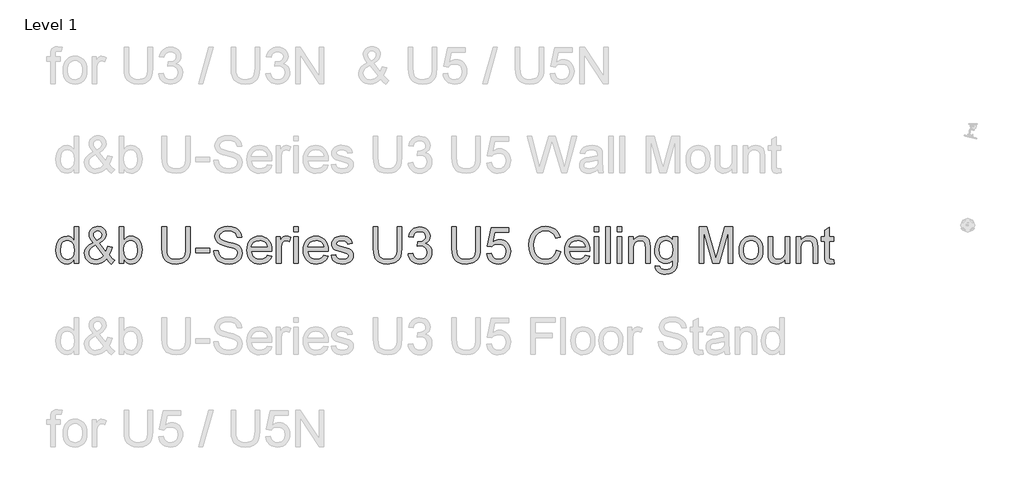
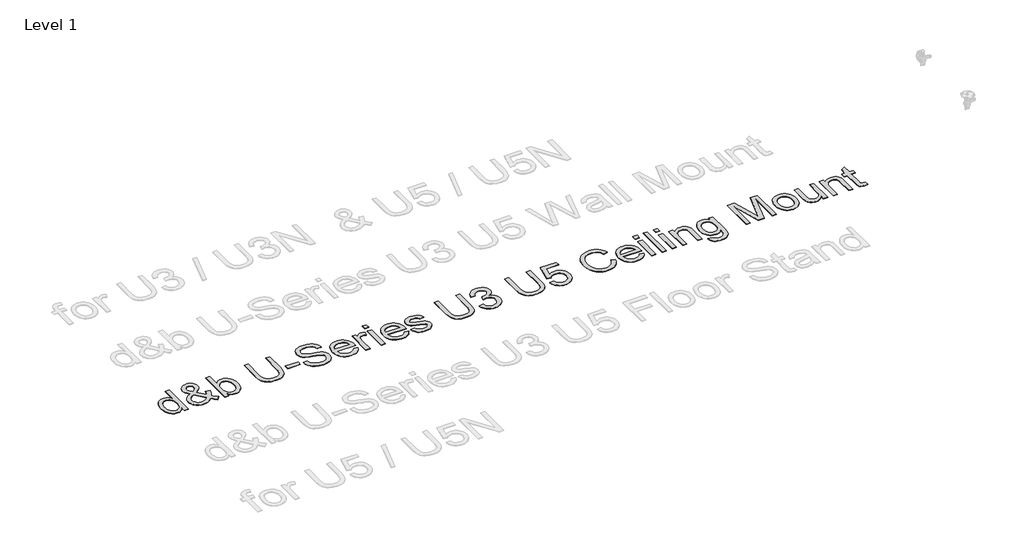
# One storey, part 11 of 29: 1 proxy.
"""IFC4 building model written with IfcOpenShell, lengths in millimetres."""

from ifc_helpers import new_model, si_unit, origin, origin_with_axes, place, context, project, spatial, polyline, outline, extrude, element, save

model = new_model("IFC4")

# Units and contexts
model_context = context("Model", 3, world=origin())
ifc_project = project(units=[si_unit("LENGTHUNIT", "METRE", prefix="MILLI")], contexts=[model_context])

# Site, building, storey
site = spatial("IfcSite", under=ifc_project)
building = spatial("IfcBuilding", under=site)
storey = spatial("IfcBuildingStorey", under=building, Name="Level 1", Elevation=0.0)

# Proxy
placement = place(None, origin())
element("IfcBuildingElementProxy", 1, Name="400mm Arial", ObjectType="400mm Arial", at=placement, inside=storey, context=model_context, shape_type="SweptSolid", body=[
    extrude(outline(polyline([(-20788.4119982, -835.6363385), (-20788.4119982, -788.2531375), (-20803.4399777, -811.7301402), (-20821.6440051, -828.4994278), (-20843.0240804, -838.5610004), (-20867.5802036, -841.9148579), (-20900.051921, -837.0588156), (-20929.7767862, -822.4906885), (-20954.9399147, -799.2282837), (-20973.7264219, -768.2894079), (-20985.4250694, -730.9248599), (-20989.3246185, -688.3854386), (-20985.7316377, -646.3733147), (-20974.9526952, -608.4324183), (-20957.0000539, -576.7209903), (-20931.8859763, -553.3972718), (-20901.5111863, -539.049874), (-20867.7764073, -534.2674081), (-20843.20189, -537.6887106), (-20821.4723268, -547.9526183), (-20803.0537016, -563.6857049), (-20788.4119982, -583.5145445), (-20788.4119982, -433.8110979), (-20738.1838431, -433.8110979), (-20738.1838431, -835.6363385), (-20788.4119982, -835.6363385)]), holes=[polyline([(-20939.0964634, -688.1892348), (-20937.6801177, -712.5460886), (-20933.4310807, -733.6226612), (-20926.3493523, -751.4189528), (-20916.4349325, -765.9349632), (-20891.7377879, -785.2487679), (-20877.8625053, -790.0772191), (-20862.9694159, -791.6867028), (-20848.0058157, -790.1507955), (-20834.2133066, -785.5430735), (-20810.1415614, -767.1121855), (-20800.6348775, -753.2031804), (-20793.844389, -736.0506824), (-20788.4119982, -692.0152076), (-20793.9424909, -643.8717172), (-20800.8556067, -625.336596), (-20810.5339688, -610.4925575), (-20822.235682, -599.1188724), (-20835.2188507, -590.9948117), (-20849.4834751, -586.1203753), (-20865.0295551, -584.4955631), (-20880.2169501, -586.0559959), (-20894.0922327, -590.7372943), (-20906.6554028, -598.5394583), (-20917.9064605, -609.4624879), (-20927.1770868, -623.7455063), (-20933.7989627, -641.627637), (-20939.0964634, -688.1892348)])]), origin_with_axes(), (0.0, 0.0, 1.0), 5.0),
    extrude(outline(polyline([(-20432.4003287, -785.9967946), (-20457.9313392, -810.4609473), (-20485.6696416, -827.9353421), (-20515.664287, -838.4199789), (-20547.9643262, -841.9148579), (-20577.2722584, -839.3274212), (-20603.3918801, -831.5651111), (-20626.3231911, -818.6279276), (-20646.0661915, -800.5158707), (-20658.8991418, -783.1457092), (-20668.0655348, -764.7822662), (-20673.5653707, -745.4255419), (-20675.3986493, -725.0755362), (-20669.5002746, -689.881492), (-20651.8051507, -658.2681659), (-20622.3868538, -630.2600833), (-20581.3189604, -605.8817698), (-20603.2324646, -577.5303307), (-20616.3903773, -555.0650035), (-20622.975465, -535.8860888), (-20625.1704942, -517.3938872), (-20623.4414488, -499.8397847), (-20618.2543127, -483.4751673), (-20609.6090858, -468.300035), (-20597.5057682, -454.3143878), (-20582.784357, -442.5973462), (-20566.2848495, -434.2280308), (-20548.0072457, -429.2064416), (-20527.9515456, -427.5325785), (-20508.8032878, -429.1328652), (-20491.4821772, -433.9337252), (-20475.9882138, -441.9351586), (-20462.3213977, -453.1371654), (-20451.1623105, -466.5832523), (-20443.1915339, -481.3169262), (-20438.409068, -497.3381871), (-20436.8149127, -514.647035), (-20441.5360649, -542.6305921), (-20455.6995218, -568.5049591), (-20479.3052831, -592.270136), (-20512.353349, -613.9261227), (-20439.6598668, -704.4741445), (-20427.2745063, -678.5997775), (-20417.9793545, -648.8503868), (-20367.7511994, -659.7396939), (-20383.2022432, -706.2645035), (-20403.2640747, -742.4395664), (-20374.7164319, -775.7451497), (-20342.6371219, -803.2627229), (-20380.3082382, -841.9148579), (-20405.9373505, -818.4685121), (-20432.4003287, -785.9967946)]), holes=[polyline([(-20537.7617322, -582.2392202), (-20511.4949577, -565.5741659), (-20496.4608468, -551.091878), (-20489.3975125, -537.0019976), (-20487.0430678, -521.5141656), (-20490.1455392, -503.9661944), (-20499.4529537, -489.9744158), (-20513.4202068, -480.8141542), (-20530.5021941, -477.7607336), (-20547.9520634, -480.7896287), (-20562.2381476, -489.876314), (-20571.7662912, -503.3285323), (-20574.9423391, -519.4540264), (-20570.6258571, -537.8481261), (-20557.578309, -558.3023651), (-20537.7617322, -582.2392202)]), polyline([(-20466.0492686, -749.7972063), (-20555.7143735, -637.8629779), (-20589.9641873, -659.7151684), (-20610.8966728, -679.9486782), (-20621.6020389, -699.2747456), (-20625.1704942, -718.4046094), (-20620.2899264, -742.0962099), (-20605.648223, -766.6707271), (-20594.8692805, -777.6152165), (-20582.0547244, -785.4327089), (-20567.2045545, -790.1232043), (-20550.3187709, -791.6867028), (-20527.5959264, -788.7681723), (-20504.1618433, -780.0125808), (-20482.7388484, -766.6216762), (-20466.0492686, -749.7972063)])]), origin_with_axes(), (0.0, 0.0, 1.0), 5.0),
    extrude(outline(polyline([(-20242.1808118, -835.6363385), (-20292.4089668, -835.6363385), (-20292.4089668, -433.8110979), (-20242.1808118, -433.8110979), (-20242.1808118, -582.8278314), (-20225.6629102, -561.5826462), (-20207.011293, -546.4075139), (-20186.2259603, -537.3024345), (-20163.306912, -534.2674081), (-20137.432545, -537.0019976), (-20112.9806551, -545.2057661), (-20091.3491937, -558.3636787), (-20073.9361126, -575.9607008), (-20060.2876906, -597.8251541), (-20049.9502065, -623.7853602), (-20043.4386952, -652.7621987), (-20041.2681915, -683.676549), (-20043.5153373, -719.3488398), (-20050.2567749, -750.729174), (-20061.4925041, -777.8175516), (-20077.2225251, -800.6139726), (-20096.1040685, -818.6831099), (-20116.7943651, -831.5896366), (-20139.2934148, -839.3335526), (-20163.6012176, -841.9148579), (-20187.274424, -838.5855258), (-20208.2620918, -828.5975297), (-20226.5642211, -811.9508694), (-20242.1808118, -788.645545), (-20242.1808118, -835.6363385)]), holes=[polyline([(-20242.1808118, -686.0309938), (-20238.7472465, -727.9204903), (-20228.4465506, -756.2719294), (-20216.2757879, -771.7658928), (-20202.1307252, -782.8330095), (-20186.0113625, -789.4732795), (-20167.9176997, -791.6867028), (-20152.8958515, -790.0557593), (-20138.9285984, -785.1629288), (-20126.0159404, -777.0082112), (-20114.1578774, -765.5916066), (-20104.2434577, -750.9437719), (-20097.1617293, -733.0953637), (-20092.9126922, -712.0463822), (-20091.4963465, -687.7968274), (-20096.9287373, -641.8361035), (-20103.7192258, -624.0428776), (-20113.2259097, -609.7077425), (-20124.6578427, -598.677414), (-20137.2240785, -590.798608), (-20150.9246172, -586.0713243), (-20165.7594586, -584.4955631), (-20180.7813068, -586.1265066), (-20194.7485599, -591.0193372), (-20207.6612179, -599.1740547), (-20219.5192809, -610.5906593), (-20229.4337006, -625.0913413), (-20236.515429, -642.498291), (-20240.7644661, -662.8115085), (-20242.1808118, -686.0309938)])]), origin_with_axes(), (0.0, 0.0, 1.0), 5.0),
    extrude(outline(polyline([(-19557.8221989, -433.8110979), (-19507.5940438, -433.8110979), (-19507.5940438, -665.6258058), (-19511.0030836, -719.9129256), (-19521.2302031, -761.7165829), (-19529.4155775, -778.6698116), (-19540.3355414, -793.9675712), (-19570.3792376, -819.5966835), (-19589.5213641, -829.3608848), (-19611.4348683, -836.3353143), (-19663.5760097, -841.9148579), (-19714.576717, -837.0588156), (-19755.3503048, -822.4906885), (-19771.9049946, -811.6902863), (-19785.9090359, -798.7132489), (-19797.3624287, -783.5595764), (-19806.2651729, -766.2292688), (-19817.706303, -722.6597778), (-19821.520013, -665.6258058), (-19821.520013, -433.8110979), (-19771.2918579, -433.8110979), (-19771.2918579, -663.8599722), (-19768.8147858, -708.999093), (-19761.3835695, -740.4284782), (-19747.9190885, -762.1948295), (-19727.3422222, -778.3448491), (-19700.5113621, -788.3512394), (-19668.2848993, -791.6867028), (-19640.6017791, -790.0373652), (-19617.1983529, -785.0893524), (-19598.0746205, -776.8426643), (-19583.230582, -765.297301), (-19572.1144144, -749.0614423), (-19564.1742947, -726.7432679), (-19559.4102228, -698.3427779), (-19557.8221989, -663.8599722), (-19557.8221989, -433.8110979)])), origin_with_axes(), (0.0, 0.0, 1.0), 5.0),
    extrude(outline(polyline([(-19451.0873693, -716.3444702), (-19451.0873693, -666.1163151), (-19294.1243847, -666.1163151), (-19294.1243847, -716.3444702), (-19451.0873693, -716.3444702)])), origin_with_axes(), (0.0, 0.0, 1.0), 5.0),
    extrude(outline(polyline([(-19250.174749, -697.5089121), (-19199.946594, -697.5089121), (-19194.1831094, -725.3821046), (-19183.7597862, -747.7861181), (-19167.499402, -765.5670812), (-19144.2247344, -779.5711224), (-19115.7751935, -788.6578077), (-19083.9901891, -791.6867028), (-19056.006632, -789.3935717), (-19031.5056911, -782.5141784), (-19011.6523261, -771.6248713), (-18997.6114966, -757.301999), (-18989.2605753, -740.8576738), (-18986.4769349, -723.6040082), (-18988.5615995, -706.7918011), (-18994.8155934, -692.2604623), (-19007.519785, -679.862839), (-19028.9550426, -669.4517786), (-19102.0899832, -650.2728639), (-19150.0985836, -637.580935), (-19180.8167302, -625.5021429), (-19205.8204431, -608.6040966), (-19223.5400926, -588.1253322), (-19234.0983058, -564.5073081), (-19237.6177103, -538.1914827), (-19233.26444, -508.7731858), (-19220.2046292, -481.3414517), (-19198.7816343, -458.0913096), (-19169.338812, -441.2177887), (-19133.997615, -430.9538811), (-19094.8794961, -427.5325785), (-19052.4994903, -431.1132966), (-19015.4169852, -441.8554509), (-18984.956356, -459.5383121), (-18962.4419779, -483.9411511), (-18948.1926819, -513.543389), (-18942.5272992, -546.8244468), (-18992.7554543, -546.8244468), (-19001.9770296, -516.854327), (-19010.3402136, -504.996264), (-19021.2049952, -495.2228656), (-19051.2486915, -482.1262666), (-19092.9174588, -477.7607336), (-19135.5672448, -482.0772157), (-19151.8705486, -487.4728183), (-19164.8261262, -495.0266619), (-19181.7486979, -514.0829493), (-19187.3895552, -536.7199547), (-19183.3919042, -556.0214967), (-19171.3989511, -571.5461169), (-19143.047512, -585.4275309), (-19089.3857917, -599.6032504), (-19034.0072887, -613.0677314), (-19000.5055016, -624.8154298), (-18971.8720197, -643.0378513), (-18951.8960273, -665.5277039), (-18940.1605917, -692.0397331), (-18936.2487798, -722.328684), (-18940.7492029, -753.2920853), (-18954.2504721, -782.4160765), (-18976.2007645, -807.4811031), (-19006.048257, -826.2676104), (-19041.941277, -838.003046), (-19082.0281518, -841.9148579), (-19131.2385, -837.6964777), (-19171.7423077, -825.041337), (-19204.0055586, -803.9003851), (-19228.4942368, -774.2245708), (-19244.2150607, -738.0740334), (-19250.174749, -697.5089121)])), origin_with_axes(), (0.0, 0.0, 1.0), 5.0),
    extrude(outline(polyline([(-18660.5825381, -747.7370671), (-18611.3354017, -754.0155865), (-18618.8861796, -773.7401928), (-18629.0795766, -791.1226171), (-18641.9155925, -806.1628593), (-18657.3942275, -818.8609195), (-18675.3560659, -828.9470176), (-18695.6416922, -836.1513733), (-18743.1843087, -841.9148579), (-18774.3500451, -839.4285887), (-18802.1190044, -831.9697813), (-18826.4911866, -819.5384355), (-18847.4665916, -802.1345515), (-18864.3339811, -780.2425071), (-18876.3821165, -754.3466803), (-18883.6109977, -724.4470712), (-18886.0206247, -690.5436796), (-18883.5864722, -655.4906568), (-18876.2840146, -624.5947006), (-18864.1132519, -597.8558109), (-18847.0741842, -575.2739878), (-18826.1539614, -557.3336092), (-18802.3397336, -544.519053), (-18775.6315007, -536.8303193), (-18746.0292628, -534.2674081), (-18717.3804525, -536.8241879), (-18691.472363, -544.4945275), (-18668.3049943, -557.2784269), (-18647.8783465, -575.1758859), (-18631.2040951, -597.7086581), (-18619.2939155, -624.3984969), (-18612.1478077, -655.2454022), (-18609.7657718, -690.249374), (-18610.0600774, -703.7874314), (-18835.7924697, -703.7874314), (-18832.8831362, -723.8308688), (-18827.0981918, -741.3849713), (-18818.4376365, -756.449739), (-18806.9014703, -769.0251719), (-18793.1273553, -778.9395917), (-18777.7529536, -786.0213201), (-18742.2032901, -791.6867028), (-18715.4705318, -789.0624779), (-18692.9561537, -781.1898032), (-18674.6601558, -767.5781694), (-18660.5825381, -747.7370671)]), holes=[polyline([(-18835.7924697, -653.5592764), (-18659.9939269, -653.5592764), (-18666.7874811, -627.0227218), (-18680.1048093, -608.0400108), (-18693.8022823, -597.739315), (-18709.3882161, -590.3816751), (-18726.8626109, -585.9670911), (-18746.2254666, -584.4955631), (-18780.0828729, -589.1921899), (-18808.0786927, -603.2820704), (-18827.5396502, -625.2446255), (-18835.7924697, -653.5592764)])]), origin_with_axes(), (0.0, 0.0, 1.0), 5.0),
    extrude(outline(polyline([(-18559.5376168, -835.6363385), (-18559.5376168, -540.5459274), (-18515.5879811, -540.5459274), (-18515.5879811, -584.2012575), (-18499.3521223, -558.8909763), (-18484.3915879, -543.9794927), (-18469.3820025, -536.6954292), (-18452.998991, -534.2674081), (-18427.9830153, -538.1424317), (-18402.5746321, -549.7675028), (-18419.3500511, -594.796259), (-18437.0083869, -587.0707371), (-18454.6667227, -584.4955631), (-18469.6640453, -586.9726352), (-18483.0672127, -594.4038515), (-18493.8952061, -606.2251263), (-18501.1670069, -621.8723738), (-18507.273848, -649.9295073), (-18509.3094617, -680.5372893), (-18509.3094617, -835.6363385), (-18559.5376168, -835.6363385)])), origin_with_axes(), (0.0, 0.0, 1.0), 5.0),
    extrude(outline(polyline([(-18371.1820352, -484.039253), (-18371.1820352, -433.8110979), (-18320.9538802, -433.8110979), (-18320.9538802, -484.039253), (-18371.1820352, -484.039253)])), origin_with_axes(), (0.0, 0.0, 1.0), 5.0),
    extrude(outline(polyline([(-18371.1820352, -835.6363385), (-18371.1820352, -540.5459274), (-18320.9538802, -540.5459274), (-18320.9538802, -835.6363385), (-18371.1820352, -835.6363385)])), origin_with_axes(), (0.0, 0.0, 1.0), 5.0),
    extrude(outline(polyline([(-18039.009119, -747.7370671), (-17989.7619826, -754.0155865), (-17997.3127606, -773.7401928), (-18007.5061575, -791.1226171), (-18020.3421735, -806.1628593), (-18035.8208084, -818.8609195), (-18053.7826468, -828.9470176), (-18074.0682732, -836.1513733), (-18121.6108897, -841.9148579), (-18152.7766261, -839.4285887), (-18180.5455853, -831.9697813), (-18204.9177675, -819.5384355), (-18225.8931726, -802.1345515), (-18242.7605621, -780.2425071), (-18254.8086974, -754.3466803), (-18262.0375786, -724.4470712), (-18264.4472057, -690.5436796), (-18262.0130532, -655.4906568), (-18254.7105956, -624.5947006), (-18242.5398329, -597.8558109), (-18225.5007651, -575.2739878), (-18204.5805423, -557.3336092), (-18180.7663145, -544.519053), (-18154.0580817, -536.8303193), (-18124.4558438, -534.2674081), (-18095.8070334, -536.8241879), (-18069.8989439, -544.4945275), (-18046.7315753, -557.2784269), (-18026.3049275, -575.1758859), (-18009.630676, -597.7086581), (-17997.7204965, -624.3984969), (-17990.5743887, -655.2454022), (-17988.1923528, -690.249374), (-17988.4866584, -703.7874314), (-18214.2190506, -703.7874314), (-18211.3097172, -723.8308688), (-18205.5247728, -741.3849713), (-18196.8642175, -756.449739), (-18185.3280513, -769.0251719), (-18171.5539362, -778.9395917), (-18156.1795345, -786.0213201), (-18120.629871, -791.6867028), (-18093.8971127, -789.0624779), (-18071.3827346, -781.1898032), (-18053.0867367, -767.5781694), (-18039.009119, -747.7370671)]), holes=[polyline([(-18214.2190506, -653.5592764), (-18038.4205079, -653.5592764), (-18045.214062, -627.0227218), (-18058.5313903, -608.0400108), (-18072.2288632, -597.739315), (-18087.8147971, -590.3816751), (-18105.2891918, -585.9670911), (-18124.6520475, -584.4955631), (-18158.5094538, -589.1921899), (-18186.5052736, -603.2820704), (-18205.9662312, -625.2446255), (-18214.2190506, -653.5592764)])]), origin_with_axes(), (0.0, 0.0, 1.0), 5.0),
    extrude(outline(polyline([(-17956.7997559, -747.7370671), (-17906.5716008, -741.4585477), (-17898.6498752, -762.9428563), (-17883.3214587, -778.7372566), (-17860.4882495, -788.4493413), (-17830.0521458, -791.6867028), (-17799.983924, -788.7191214), (-17778.8429721, -779.8163771), (-17766.3349842, -766.9159818), (-17762.1656549, -751.9554473), (-17766.3595097, -739.1531539), (-17778.9410739, -729.3920183), (-17830.640757, -715.069146), (-17906.2772952, -690.4946287), (-17925.4194217, -678.1460564), (-17939.2885729, -661.7998331), (-17947.7130706, -642.498291), (-17950.5212365, -621.2837627), (-17948.2648936, -601.8228051), (-17941.4958649, -583.857901), (-17930.827287, -568.1002889), (-17916.8722966, -555.2612073), (-17884.9401395, -540.3987746), (-17864.0567049, -535.8002497), (-17841.7262678, -534.2674081), (-17809.0338211, -536.7322174), (-17780.6088056, -544.1266455), (-17757.751071, -555.7271911), (-17741.7604669, -570.8103529), (-17731.1654655, -590.4920397), (-17724.4945386, -615.8881601), (-17774.7226937, -622.1666794), (-17781.0625268, -606.3600164), (-17793.6073028, -594.4529025), (-17812.4796492, -586.984898), (-17837.8021932, -584.4955631), (-17866.6441416, -586.8745334), (-17885.8721072, -594.0114441), (-17896.6878378, -604.3121399), (-17900.2930814, -616.1824657), (-17894.3088676, -630.7996436), (-17875.5714113, -641.8851544), (-17832.3084887, -652.5782577), (-17758.5849369, -676.2208073), (-17739.1117166, -687.5270473), (-17724.3473858, -703.0026165), (-17715.0399714, -722.696566), (-17711.9374999, -746.6579466), (-17715.5795316, -771.4286676), (-17726.5056269, -794.7278606), (-17744.2988527, -814.7283785), (-17768.5422762, -829.6030738), (-17797.825683, -838.8369119), (-17830.7388588, -841.9148579), (-17857.7720541, -840.4310672), (-17881.3839468, -835.979695), (-17901.574537, -828.5607415), (-17918.3438246, -818.1742065), (-17932.0412976, -804.869141), (-17943.0164438, -788.6945959), (-17951.2692632, -769.6505713), (-17956.7997559, -747.7370671)])), origin_with_axes(), (0.0, 0.0, 1.0), 5.0),
    extrude(outline(polyline([(-17228.4915073, -433.8110979), (-17178.2633522, -433.8110979), (-17178.2633522, -665.6258058), (-17181.672392, -719.9129256), (-17191.8995115, -761.7165829), (-17200.0848859, -778.6698116), (-17211.0048498, -793.9675712), (-17241.048546, -819.5966835), (-17260.1906725, -829.3608848), (-17282.1041767, -836.3353143), (-17334.2453182, -841.9148579), (-17385.2460254, -837.0588156), (-17426.0196132, -822.4906885), (-17442.574303, -811.6902863), (-17456.5783443, -798.7132489), (-17468.0317371, -783.5595764), (-17476.9344814, -766.2292688), (-17488.3756114, -722.6597778), (-17492.1893214, -665.6258058), (-17492.1893214, -433.8110979), (-17441.9611663, -433.8110979), (-17441.9611663, -663.8599722), (-17439.4840942, -708.999093), (-17432.0528779, -740.4284782), (-17418.5883969, -762.1948295), (-17398.0115307, -778.3448491), (-17371.1806705, -788.3512394), (-17338.9542077, -791.6867028), (-17311.2710876, -790.0373652), (-17287.8676613, -785.0893524), (-17268.7439289, -776.8426643), (-17253.8998904, -765.297301), (-17242.7837228, -749.0614423), (-17234.8436031, -726.7432679), (-17230.0795312, -698.3427779), (-17228.4915073, -663.8599722), (-17228.4915073, -433.8110979)])), origin_with_axes(), (0.0, 0.0, 1.0), 5.0),
    extrude(outline(polyline([(-17109.199639, -728.901509), (-17058.9714839, -722.6229896), (-17047.7265576, -754.1872648), (-17031.2577069, -775.499895), (-17008.7555916, -787.6400009), (-16979.4108711, -791.6867028), (-16944.9771163, -786.119422), (-16930.7032949, -779.1603209), (-16918.3915108, -769.4175794), (-16901.3953626, -744.4997056), (-16895.7299799, -714.284331), (-16901.3463117, -685.6017981), (-16918.1953071, -662.3393933), (-16943.7017921, -646.9251377), (-16975.2905927, -641.7870525), (-17010.5091624, -647.280757), (-17004.9173561, -597.0526019), (-16996.8730031, -597.6412131), (-16966.7802559, -594.0359695), (-16939.8758193, -583.2202389), (-16928.8025713, -575.0409959), (-16920.8931084, -564.924241), (-16916.1474306, -552.8699743), (-16914.5655381, -538.8781957), (-16919.1518003, -517.1854208), (-16932.9105869, -499.5883986), (-16953.9043861, -487.9265394), (-16980.195686, -484.039253), (-17006.5360369, -487.9633276), (-17028.0693963, -499.7355514), (-17043.7902202, -519.3559245), (-17052.6929645, -546.8244468), (-17102.9211196, -540.5459274), (-17096.9675626, -516.5661527), (-17088.1322634, -495.4435948), (-17076.4152218, -477.1782538), (-17061.816438, -461.7701295), (-17044.7957643, -449.5380532), (-17025.8130534, -440.8008558), (-17004.8683051, -435.5585374), (-16981.9615196, -433.8110979), (-16950.3849817, -437.2569259), (-16921.3836177, -447.59441), (-16896.9317278, -463.9038451), (-16879.0036119, -485.2655263), (-16868.0039402, -509.8768318), (-16864.337383, -535.9351398), (-16867.8199992, -560.2153515), (-16878.2678479, -582.2392202), (-16895.5337762, -601.001202), (-16919.4706313, -615.4957526), (-16888.0289835, -628.1999442), (-16864.7297904, -649.8314055), (-16850.3088162, -679.2129142), (-16845.5018248, -715.1672478), (-16847.9053205, -740.6492074), (-16855.1158076, -764.1200786), (-16867.1332861, -785.5798617), (-16883.9577561, -805.0285565), (-16904.4549146, -821.1663134), (-16927.4904588, -832.6932825), (-16953.0643889, -839.6094641), (-16981.1767046, -841.9148579), (-17006.5850878, -839.9466892), (-17029.737128, -834.0421832), (-17050.6328253, -824.2013398), (-17069.2721798, -810.4241591), (-17084.9010332, -793.5199814), (-17096.7652275, -774.2981472), (-17104.8647628, -752.7586564), (-17109.199639, -728.901509)])), origin_with_axes(), (0.0, 0.0, 1.0), 5.0),
    extrude(outline(polyline([(-16362.0558322, -433.8110979), (-16311.8276772, -433.8110979), (-16311.8276772, -665.6258058), (-16315.236717, -719.9129256), (-16325.4638364, -761.7165829), (-16333.6492108, -778.6698116), (-16344.5691747, -793.9675712), (-16374.612871, -819.5966835), (-16393.7549975, -829.3608848), (-16415.6685017, -836.3353143), (-16467.8096431, -841.9148579), (-16518.8103504, -837.0588156), (-16559.5839382, -822.4906885), (-16576.138628, -811.6902863), (-16590.1426692, -798.7132489), (-16601.596062, -783.5595764), (-16610.4988063, -766.2292688), (-16621.9399364, -722.6597778), (-16625.7536464, -665.6258058), (-16625.7536464, -433.8110979), (-16575.5254913, -433.8110979), (-16575.5254913, -663.8599722), (-16573.0484192, -708.999093), (-16565.6172029, -740.4284782), (-16552.1527219, -762.1948295), (-16531.5758556, -778.3448491), (-16504.7449954, -788.3512394), (-16472.5185327, -791.6867028), (-16444.8354125, -790.0373652), (-16421.4319863, -785.0893524), (-16402.3082539, -776.8426643), (-16387.4642154, -765.297301), (-16376.3480477, -749.0614423), (-16368.407928, -726.7432679), (-16363.6438562, -698.3427779), (-16362.0558322, -663.8599722), (-16362.0558322, -433.8110979)])), origin_with_axes(), (0.0, 0.0, 1.0), 5.0),
    extrude(outline(polyline([(-16242.7639639, -728.901509), (-16192.5358089, -722.6229896), (-16183.3142335, -752.7770505), (-16167.2255276, -774.3717236), (-16144.3432675, -787.357958), (-16114.7410296, -791.6867028), (-16095.6111659, -790.1814523), (-16078.737645, -785.6657008), (-16064.1204671, -778.1394483), (-16051.759632, -767.6026949), (-16041.9310514, -754.5766066), (-16034.9106367, -739.5823496), (-16029.2943049, -703.6893296), (-16034.5550174, -669.8932369), (-16041.1309081, -655.9750348), (-16050.337155, -644.0433954), (-16062.204415, -634.4723322), (-16076.763345, -627.6358584), (-16113.9562147, -622.1666794), (-16138.3222655, -624.3494459), (-16158.0530032, -630.8977455), (-16173.8106153, -640.9286612), (-16186.2572895, -653.5592764), (-16236.4854445, -647.280757), (-16192.5358089, -440.0896173), (-15997.9017079, -440.0896173), (-15997.9017079, -490.3177724), (-16151.9216366, -490.3177724), (-16173.504047, -600.9766765), (-16155.7782662, -588.272485), (-16137.6232897, -579.1980624), (-16119.0391176, -573.7534089), (-16100.0257498, -571.9385244), (-16075.5615971, -574.1887359), (-16053.0840072, -580.9393705), (-16032.5929801, -592.1904282), (-16014.0885157, -607.941909), (-15998.7662306, -627.2311882), (-15987.8217413, -649.0956415), (-15981.2550477, -673.5352687), (-15979.0661498, -700.5500699), (-15981.0343185, -726.5715897), (-15986.9388245, -750.778225), (-15996.7796679, -773.1699757), (-16010.5568486, -793.746842), (-16031.4280204, -814.8203489), (-16055.7818085, -829.8728539), (-16083.6182128, -838.9043569), (-16114.9372333, -841.9148579), (-16140.8575856, -839.9804117), (-16164.2702089, -834.1770733), (-16185.1751033, -824.5048425), (-16203.5722687, -810.9637194), (-16218.8792254, -794.2281543), (-16230.5134935, -774.9725975), (-16238.475073, -753.1970491), (-16242.7639639, -728.901509)])), origin_with_axes(), (0.0, 0.0, 1.0), 5.0),
    extrude(outline(polyline([(-15476.784599, -692.8000225), (-15426.556444, -705.7494687), (-15436.4953892, -736.9857158), (-15449.7330097, -764.2794942), (-15466.2693053, -787.6308038), (-15486.1042763, -807.0396448), (-15508.7903326, -822.2975505), (-15533.8798847, -833.1960546), (-15561.3729325, -839.7351571), (-15591.2694759, -841.9148579), (-15621.8987177, -840.2655203), (-15649.5297212, -835.3175074), (-15674.1624865, -827.0708194), (-15695.7970135, -815.5254561), (-15714.7306735, -800.8530959), (-15731.2608378, -783.2254169), (-15745.3875065, -762.6424193), (-15757.1106794, -739.104103), (-15772.892817, -687.2327417), (-15778.1535295, -631.6825604), (-15772.2061039, -573.0912213), (-15764.7718219, -546.79379), (-15754.3638271, -522.4951842), (-15741.2151115, -500.5970085), (-15725.5586669, -481.5008672), (-15707.3944934, -465.2067605), (-15686.722591, -451.7146883), (-15664.245001, -441.1350153), (-15640.6637652, -433.578106), (-15590.1903554, -427.5325785), (-15561.4618373, -429.4884845), (-15535.1184207, -435.3562023), (-15511.1601058, -445.135732), (-15489.5868925, -458.8270736), (-15470.7544, -476.0684764), (-15455.0182477, -496.4981899), (-15442.3784354, -520.116214), (-15432.8349633, -546.9225487), (-15483.0631184, -558.8909763), (-15500.4761995, -522.2621923), (-15524.2659019, -497.135852), (-15554.7265311, -482.6045132), (-15592.1523927, -477.7607336), (-15635.292688, -483.1318107), (-15653.974962, -489.8456571), (-15670.7319869, -499.2450421), (-15697.6241607, -524.4081706), (-15715.123081, -556.928939), (-15724.7248011, -593.692613), (-15727.9253744, -631.5844585), (-15724.1361899, -677.9866408), (-15712.7686362, -718.1103038), (-15693.3935178, -750.4226057), (-15665.581639, -773.3907049), (-15632.2392675, -787.1127033), (-15596.2726711, -791.6867028), (-15574.435809, -790.1293357), (-15554.3463864, -785.4572344), (-15536.0044032, -777.6703988), (-15519.4098595, -766.768829), (-15504.9551628, -752.8015759), (-15493.0327205, -735.8176905), (-15483.6425326, -715.8171727), (-15476.784599, -692.8000225)])), origin_with_axes(), (0.0, 0.0, 1.0), 5.0),
    extrude(outline(polyline([(-15157.1687216, -747.7370671), (-15107.9215852, -754.0155865), (-15115.4723632, -773.7401928), (-15125.6657601, -791.1226171), (-15138.5017761, -806.1628593), (-15153.980411, -818.8609195), (-15171.9422494, -828.9470176), (-15192.2278758, -836.1513733), (-15239.7704923, -841.9148579), (-15270.9362286, -839.4285887), (-15298.7051879, -831.9697813), (-15323.0773701, -819.5384355), (-15344.0527752, -802.1345515), (-15360.9201647, -780.2425071), (-15372.9683, -754.3466803), (-15380.1971812, -724.4470712), (-15382.6068083, -690.5436796), (-15380.1726557, -655.4906568), (-15372.8701981, -624.5947006), (-15360.6994355, -597.8558109), (-15343.6603677, -575.2739878), (-15322.7401449, -557.3336092), (-15298.9259171, -544.519053), (-15272.2176843, -536.8303193), (-15242.6154464, -534.2674081), (-15213.966636, -536.8241879), (-15188.0585465, -544.4945275), (-15164.8911778, -557.2784269), (-15144.4645301, -575.1758859), (-15127.7902786, -597.7086581), (-15115.880099, -624.3984969), (-15108.7339913, -655.2454022), (-15106.3519554, -690.249374), (-15106.646261, -703.7874314), (-15332.3786532, -703.7874314), (-15329.4693198, -723.8308688), (-15323.6843754, -741.3849713), (-15315.0238201, -756.449739), (-15303.4876538, -769.0251719), (-15289.7135388, -778.9395917), (-15274.3391371, -786.0213201), (-15238.7894736, -791.6867028), (-15212.0567153, -789.0624779), (-15189.5423372, -781.1898032), (-15171.2463393, -767.5781694), (-15157.1687216, -747.7370671)]), holes=[polyline([(-15332.3786532, -653.5592764), (-15156.5801104, -653.5592764), (-15163.3736646, -627.0227218), (-15176.6909928, -608.0400108), (-15190.3884658, -597.739315), (-15205.9743997, -590.3816751), (-15223.4487944, -585.9670911), (-15242.8116501, -584.4955631), (-15276.6690564, -589.1921899), (-15304.6648762, -603.2820704), (-15324.1258338, -625.2446255), (-15332.3786532, -653.5592764)])]), origin_with_axes(), (0.0, 0.0, 1.0), 5.0),
    extrude(outline(polyline([(-15056.1238003, -484.039253), (-15056.1238003, -433.8110979), (-15005.8956452, -433.8110979), (-15005.8956452, -484.039253), (-15056.1238003, -484.039253)])), origin_with_axes(), (0.0, 0.0, 1.0), 5.0),
    extrude(outline(polyline([(-15056.1238003, -835.6363385), (-15056.1238003, -540.5459274), (-15005.8956452, -540.5459274), (-15005.8956452, -835.6363385), (-15056.1238003, -835.6363385)])), origin_with_axes(), (0.0, 0.0, 1.0), 5.0),
    extrude(outline(polyline([(-14930.5534126, -835.6363385), (-14930.5534126, -433.8110979), (-14880.3252575, -433.8110979), (-14880.3252575, -835.6363385), (-14930.5534126, -835.6363385)])), origin_with_axes(), (0.0, 0.0, 1.0), 5.0),
    extrude(outline(polyline([(-14804.9830249, -835.6363385), (-14804.9830249, -540.5459274), (-14754.7548698, -540.5459274), (-14754.7548698, -835.6363385), (-14804.9830249, -835.6363385)])), origin_with_axes(), (0.0, 0.0, 1.0), 5.0),
    extrude(outline(polyline([(-14804.9830249, -484.039253), (-14804.9830249, -433.8110979), (-14754.7548698, -433.8110979), (-14754.7548698, -484.039253), (-14804.9830249, -484.039253)])), origin_with_axes(), (0.0, 0.0, 1.0), 5.0),
    extrude(outline(polyline([(-14679.4126372, -835.6363385), (-14679.4126372, -540.5459274), (-14629.1844822, -540.5459274), (-14629.1844822, -581.7487109), (-14611.7346128, -560.9756409), (-14590.7776019, -546.1377338), (-14566.3134492, -537.2349895), (-14538.3421548, -534.2674081), (-14513.5836965, -536.658641), (-14490.9099029, -543.8323399), (-14472.0007683, -554.8933253), (-14458.5362873, -568.9464175), (-14449.4005511, -585.9548284), (-14443.477651, -605.8817698), (-14440.8289006, -654.4421932), (-14440.8289006, -835.6363385), (-14491.0570557, -835.6363385), (-14491.0570557, -661.2112219), (-14492.5040582, -635.238753), (-14496.8450658, -616.7710768), (-14504.8526305, -603.5395878), (-14517.2993047, -593.2756801), (-14533.2531205, -586.6905924), (-14551.7821104, -584.4955631), (-14581.2004072, -589.4251819), (-14606.2776966, -604.2140381), (-14616.2994153, -616.2866989), (-14623.4577858, -632.7862064), (-14627.7528081, -653.7125605), (-14629.1844822, -679.0657614), (-14629.1844822, -835.6363385), (-14679.4126372, -835.6363385)])), origin_with_axes(), (0.0, 0.0, 1.0), 5.0),
    extrude(outline(polyline([(-14384.3222262, -860.750416), (-14334.0940711, -867.0289354), (-14328.5513157, -882.7252339), (-14317.8091614, -893.5164391), (-14296.6927349, -901.9041486), (-14269.0525343, -904.7000517), (-14239.5729238, -901.5362666), (-14217.6471569, -892.0449111), (-14202.4413677, -876.839122), (-14193.1216905, -856.5320358), (-14189.6881252, -797.9652222), (-14206.4022306, -814.4463356), (-14225.0538477, -826.2185594), (-14245.6429767, -833.2818937), (-14268.1696176, -835.6363385), (-14295.7086506, -832.8956176), (-14319.9551397, -824.6734551), (-14340.909085, -810.9698507), (-14358.5704865, -791.7848047), (-14372.5837248, -768.7676545), (-14382.5931808, -743.5677379), (-14388.5988544, -716.1850547), (-14390.6007455, -686.619605), (-14387.0077647, -646.0667464), (-14376.2288223, -608.7757748), (-14358.6440629, -577.1747114), (-14334.6336313, -553.6915774), (-14305.0191307, -539.1234504), (-14270.6221642, -534.2674081), (-14247.1328988, -537.0142603), (-14225.8141372, -545.254817), (-14206.6658793, -558.9890781), (-14189.6881252, -578.2170438), (-14189.6881252, -540.5459274), (-14139.4599702, -540.5459274), (-14139.4599702, -795.3164718), (-14142.8935355, -854.1408029), (-14153.1942313, -892.878777), (-14170.9384062, -918.569203), (-14196.7024086, -938.2508897), (-14229.9221528, -950.7588775), (-14270.033553, -954.9282068), (-14294.6417928, -953.4597445), (-14316.7668291, -949.0543576), (-14336.408662, -941.7120461), (-14353.5672914, -931.4328101), (-14367.4272455, -918.2043866), (-14377.1730527, -902.0145132), (-14382.8047129, -882.8631896), (-14384.3222262, -860.750416)]), holes=[polyline([(-14340.3725905, -683.1860397), (-14335.0137761, -729.2571282), (-14328.3152581, -746.8940042), (-14318.9373329, -760.931768), (-14307.5360567, -771.6401998), (-14294.7674858, -779.2890796), (-14280.6316201, -783.8784075), (-14265.1284597, -785.4081834), (-14249.7785835, -783.8876045), (-14235.7101628, -779.3258678), (-14222.9231978, -771.7229732), (-14211.4176884, -761.0789208), (-14201.9110045, -747.1791128), (-14195.120516, -729.8089512), (-14189.6881252, -684.6575677), (-14195.2799316, -641.1126022), (-14202.2696895, -623.9110532), (-14212.0553506, -609.7567935), (-14223.8091803, -598.7050052), (-14236.7034442, -590.8108707), (-14250.7381423, -586.07439), (-14265.9132746, -584.4955631), (-14280.8339552, -586.0498646), (-14294.5958075, -590.7127689), (-14318.6430273, -609.364386), (-14328.1497112, -623.3040479), (-14334.9401997, -640.2542109), (-14340.3725905, -683.1860397)])]), origin_with_axes(), (0.0, 0.0, 1.0), 5.0),
    extrude(outline(polyline([(-13900.8762336, -835.6363385), (-13900.8762336, -433.8110979), (-13814.7427958, -433.8110979), (-13732.3372288, -717.0311833), (-13715.6599117, -776.1866081), (-13697.7072704, -712.12609), (-13616.8713333, -433.8110979), (-13530.4435899, -433.8110979), (-13530.4435899, -835.6363385), (-13580.671745, -835.6363385), (-13580.671745, -484.039253), (-13681.6185644, -835.6363385), (-13749.6031572, -835.6363385), (-13850.6480785, -484.039253), (-13850.6480785, -835.6363385), (-13900.8762336, -835.6363385)])), origin_with_axes(), (0.0, 0.0, 1.0), 5.0),
    extrude(outline(polyline([(-13461.3798767, -688.091133), (-13458.6636813, -649.874325), (-13450.5150951, -616.9427551), (-13436.9341181, -589.2964232), (-13417.9207503, -566.9353292), (-13398.7786238, -552.6431137), (-13377.6499346, -542.4343884), (-13354.5346825, -536.3091531), (-13329.4328677, -534.2674081), (-13301.7221564, -536.7536772), (-13276.6663269, -544.2124847), (-13254.2653791, -556.6438304), (-13234.519313, -574.0477145), (-13218.4030159, -595.8355256), (-13206.8913751, -621.4186527), (-13199.9843907, -650.7970957), (-13197.6820625, -683.9708546), (-13201.7532899, -734.7140445), (-13213.9669722, -773.341654), (-13233.96749, -802.2694415), (-13261.3992241, -823.9131656), (-13293.9813061, -837.4144348), (-13329.4328677, -841.9148579), (-13357.5482492, -839.4377858), (-13382.8370707, -832.0065695), (-13405.2993322, -819.621209), (-13424.9350337, -802.2817043), (-13440.8796525, -780.282361), (-13452.2686659, -753.9174846), (-13459.102074, -723.1870753), (-13461.3798767, -688.091133)]), holes=[polyline([(-13411.1517216, -687.9930311), (-13409.6985877, -712.3560162), (-13405.3391861, -733.450983), (-13398.0735167, -751.2779313), (-13387.9015795, -765.8368613), (-13375.5284817, -777.146167), (-13361.6593305, -785.2242424), (-13346.2941258, -790.0710877), (-13329.4328677, -791.6867028), (-13312.6574487, -790.0618907), (-13297.3535577, -785.1874542), (-13283.5211947, -777.0633935), (-13271.1603597, -765.6897085), (-13260.9884225, -750.9866914), (-13253.7227531, -732.8746345), (-13249.3633515, -711.3535378), (-13247.9102176, -686.4234013), (-13249.3725485, -662.8329683), (-13253.7595413, -642.2898246), (-13261.071196, -624.79397), (-13271.3075125, -610.3454047), (-13283.7143328, -599.036099), (-13297.5374987, -590.9580235), (-13312.7770104, -586.1111782), (-13329.4328677, -584.4955631), (-13346.2941258, -586.1050469), (-13361.6593305, -590.9334981), (-13375.5284817, -598.9809167), (-13387.9015795, -610.2473028), (-13398.0735167, -624.7633132), (-13405.3391861, -642.5596047), (-13409.6985877, -663.6361773), (-13411.1517216, -687.9930311)])]), origin_with_axes(), (0.0, 0.0, 1.0), 5.0),
    extrude(outline(polyline([(-12952.8198065, -835.6363385), (-12952.8198065, -784.9176741), (-12970.9931771, -809.853942), (-12992.1586545, -827.6655619), (-13016.3162389, -838.3525339), (-13043.4659301, -841.9148579), (-13067.9300828, -839.4132603), (-13090.7019783, -831.9084676), (-13109.8073166, -820.6267531), (-13123.2717976, -806.7943901), (-13132.3339574, -789.9944456), (-13138.2323321, -769.8099868), (-13141.1753881, -723.1134989), (-13141.1753881, -540.5459274), (-13090.947233, -540.5459274), (-13090.947233, -699.4709494), (-13087.9060752, -750.6801231), (-13080.5852235, -767.7621104), (-13068.0404474, -780.7483448), (-13051.1056129, -788.9521133), (-13030.6145858, -791.6867028), (-13008.9463363, -788.8907997), (-12988.6760383, -780.5030902), (-12971.961933, -767.2961265), (-12960.9622614, -750.042461), (-12954.8554202, -726.4121741), (-12952.8198065, -694.0753468), (-12952.8198065, -540.5459274), (-12902.5916515, -540.5459274), (-12902.5916515, -835.6363385), (-12952.8198065, -835.6363385)])), origin_with_axes(), (0.0, 0.0, 1.0), 5.0),
    extrude(outline(polyline([(-12833.5279382, -835.6363385), (-12833.5279382, -540.5459274), (-12783.2997832, -540.5459274), (-12783.2997832, -581.7487109), (-12765.8499138, -560.9756409), (-12744.8929029, -546.1377338), (-12720.4287502, -537.2349895), (-12692.4574558, -534.2674081), (-12667.6989975, -536.658641), (-12645.0252039, -543.8323399), (-12626.1160693, -554.8933253), (-12612.6515883, -568.9464175), (-12603.5158521, -585.9548284), (-12597.592952, -605.8817698), (-12594.9442016, -654.4421932), (-12594.9442016, -835.6363385), (-12645.1723567, -835.6363385), (-12645.1723567, -661.2112219), (-12646.6193592, -635.238753), (-12650.9603668, -616.7710768), (-12658.9679315, -603.5395878), (-12671.4146057, -593.2756801), (-12687.3684215, -586.6905924), (-12705.8974114, -584.4955631), (-12735.3157082, -589.4251819), (-12760.3929976, -604.2140381), (-12770.4147163, -616.2866989), (-12777.5730868, -632.7862064), (-12781.8681091, -653.7125605), (-12783.2997832, -679.0657614), (-12783.2997832, -835.6363385), (-12833.5279382, -835.6363385)])), origin_with_axes(), (0.0, 0.0, 1.0), 5.0),
    extrude(outline(polyline([(-12419.1456589, -793.746842), (-12412.8671395, -837.1078665), (-12450.4401539, -841.9148579), (-12474.5486873, -839.8301933), (-12492.5258542, -833.5761993), (-12505.2300457, -823.9376911), (-12513.5196534, -811.6994834), (-12518.0813901, -790.6811587), (-12519.601969, -754.7022996), (-12519.601969, -590.7740825), (-12557.2730853, -590.7740825), (-12557.2730853, -540.5459274), (-12519.601969, -540.5459274), (-12519.601969, -468.8334639), (-12469.3738139, -439.3048024), (-12469.3738139, -540.5459274), (-12419.1456589, -540.5459274), (-12419.1456589, -590.7740825), (-12469.3738139, -590.7740825), (-12469.3738139, -753.2307716), (-12466.7250636, -779.1296641), (-12458.1411504, -788.3021885), (-12441.0223748, -791.6867028), (-12419.1456589, -793.746842)])), origin_with_axes(), (0.0, 0.0, 1.0), 5.0),
])

save(model, "model.ifc")
